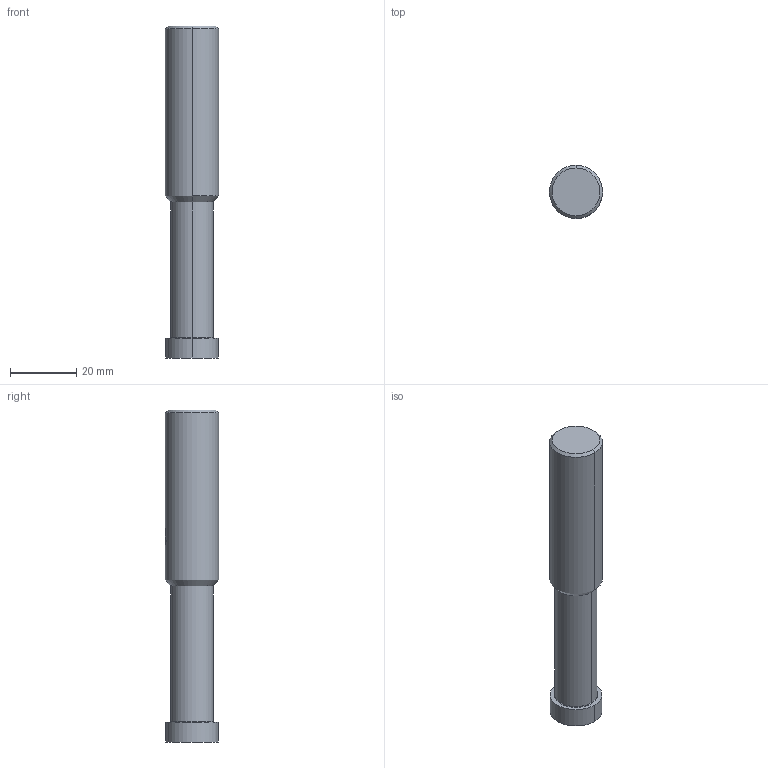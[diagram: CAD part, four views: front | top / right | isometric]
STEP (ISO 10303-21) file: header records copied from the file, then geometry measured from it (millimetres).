
FILE_DESCRIPTION(('no description'),'unknown implementation level');
FILE_NAME('solid_NGGkcJVGRUiv05nDz5IGTuTH1o_1.STP',' ',('CIMSOURCE GmbH'),('CADClick - KiM GmbH - www.kimweb.de'),'unknown preprocess','ACIS','unknown authorization');
FILE_SCHEMA(('automotive_design'));
Length unit declared in the file: millimetre
Products named in the file (2): NOCUT; CUT
Bounding box: 16 x 16 x 100 mm (x, y, z)
Volume: 17111.6 mm3; surface area: 5348.3 mm2
Topology: 2 solids, 2 shells, 30 faces, 69 edges, 44 vertices
Faces by surface type: cylinder 14, plane 10, cone 6
Entity records: 1974 total; most frequent: CARTESIAN_POINT 430, DIRECTION 153, STYLED_ITEM 145, PRESENTATION_STYLE_ASSIGNMENT 145, COLOUR_RGB 145, ORIENTED_EDGE 138, EDGE_CURVE 69, CURVE_STYLE 69
